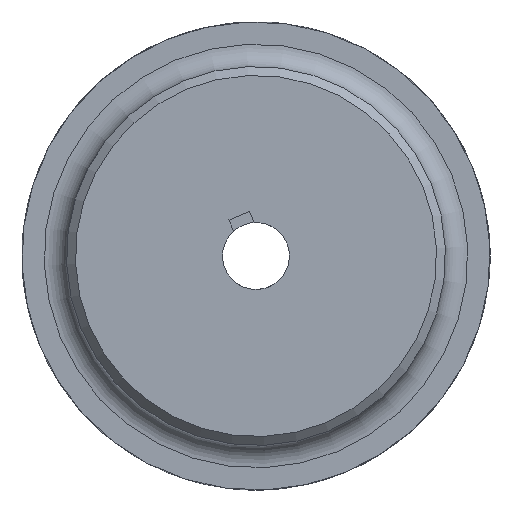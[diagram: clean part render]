
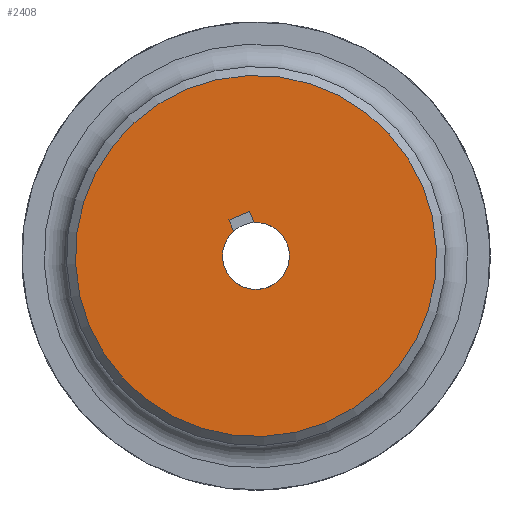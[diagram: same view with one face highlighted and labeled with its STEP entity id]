
A CAD part, left-side view. The second image highlights one B-rep face of the part: STEP entity #2408.
In plain terms, the highlighted planar face has unit normal (-1, 0, 0) as drawn and (0, 0, -1) by its records, which use the part's own axes.
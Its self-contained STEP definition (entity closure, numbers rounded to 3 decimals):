
#88=FACE_BOUND('',#658,.T.);
#270=CIRCLE('',#2655,7.5);
#332=CIRCLE('',#2757,40.5);
#509=FACE_OUTER_BOUND('',#657,.T.);
#657=EDGE_LOOP('',(#2024));
#658=EDGE_LOOP('',(#2025,#2026,#2027,#2028));
#768=LINE('',#3859,#869);
#771=LINE('',#3865,#872);
#774=LINE('',#3871,#875);
#869=VECTOR('',#3090,10.);
#872=VECTOR('',#3095,10.);
#875=VECTOR('',#3100,10.);
#1006=VERTEX_POINT('',#3856);
#1007=VERTEX_POINT('',#3858);
#1009=VERTEX_POINT('',#3864);
#1011=VERTEX_POINT('',#3870);
#1085=VERTEX_POINT('',#4224);
#1293=EDGE_CURVE('',#1007,#1006,#768,.T.);
#1296=EDGE_CURVE('',#1009,#1007,#771,.T.);
#1299=EDGE_CURVE('',#1011,#1009,#774,.T.);
#1302=EDGE_CURVE('',#1006,#1011,#270,.T.);
#1413=EDGE_CURVE('',#1085,#1085,#332,.T.);
#2024=ORIENTED_EDGE('',*,*,#1413,.T.);
#2025=ORIENTED_EDGE('',*,*,#1299,.T.);
#2026=ORIENTED_EDGE('',*,*,#1296,.T.);
#2027=ORIENTED_EDGE('',*,*,#1293,.T.);
#2028=ORIENTED_EDGE('',*,*,#1302,.T.);
#2308=PLANE('',#2758);
#2408=ADVANCED_FACE('',(#509,#88),#2308,.T.);
#2655=AXIS2_PLACEMENT_3D('',#3875,#3106,#3107);
#2757=AXIS2_PLACEMENT_3D('',#4226,#3346,#3347);
#2758=AXIS2_PLACEMENT_3D('',#4227,#3348,#3349);
#3090=DIRECTION('',(1.,0.,0.));
#3095=DIRECTION('',(0.,-1.,0.));
#3100=DIRECTION('',(-1.,0.,0.));
#3106=DIRECTION('center_axis',(0.,0.,
1.));
#3107=DIRECTION('ref_axis',(1.,0.,0.));
#3346=DIRECTION('center_axis',(0.,0.,
-1.));
#3347=DIRECTION('ref_axis',(0.,1.,0.));
#3348=DIRECTION('center_axis',(0.,0.,
-1.));
#3349=DIRECTION('ref_axis',(0.,-1.,0.));
#3856=CARTESIAN_POINT('',(-7.071,-2.5,-56.));
#3858=CARTESIAN_POINT('',(-9.8,-2.5,-56.));
#3859=CARTESIAN_POINT('',(-4.9,-2.5,-56.));
#3864=CARTESIAN_POINT('',(-9.8,2.5,-56.));
#3865=CARTESIAN_POINT('',(-9.8,1.25,-56.));
#3870=CARTESIAN_POINT('',(-7.071,2.5,-56.));
#3871=CARTESIAN_POINT('',(-3.536,2.5,-56.));
#3875=CARTESIAN_POINT('Origin',(0.,0.,
-56.));
#4224=CARTESIAN_POINT('',(0.,-40.5,-56.));
#4226=CARTESIAN_POINT('Origin',(0.,0.,
-56.));
#4227=CARTESIAN_POINT('Origin',(0.,0.,
-56.));
